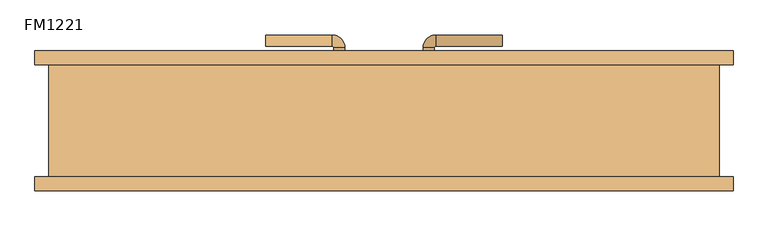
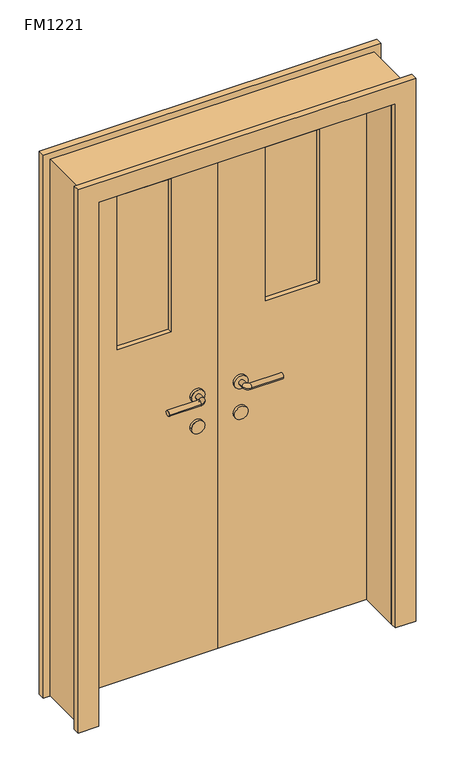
"""IFC4 building model written with IfcOpenShell, lengths in millimetres: door geometry, 双扇防火门 : FM1221."""

from ifc_helpers import new_model, si_unit, point, frame, frame_2d, origin, place, context, project, spatial, polyline, circle_curve, ellipse_curve, trimmed, segment, composite_curve, outline, extrude, source, transform, mapped, element, save
from ifc_brep_helpers import plane_surface, cylinder_surface, revolved_surface, advanced_brep


def fm1221_e838069c(model_context):
    return source(origin(), model_context, "Body", "SolidModel", [
        extrude(outline(composite_curve([segment(trimmed(circle_curve(frame_2d((900.0, 80.0)), 25.0), [point((900.0, 105.0))], [point((900.0, 55.0))], False, "CARTESIAN"), True, "CONTINUOUS"), segment(trimmed(circle_curve(frame_2d((900.0, 80.0)), 25.0), [point((900.0, 55.0))], [point((900.0, 105.0))], False, "CARTESIAN"), True, "CONTINUOUS")], self_intersect=False)), frame((0.0, 100.0, 0.0), z_axis=(0.0, 1.0, 0.0), x_axis=(0.0, 0.0, 1.0)), (0.0, 0.0, 1.0), 10.0),
        extrude(outline(composite_curve([segment(trimmed(circle_curve(frame_2d((900.0, 80.0)), 25.0), [point((900.0, 105.0))], [point((900.0, 55.0))], False, "CARTESIAN"), True, "CONTINUOUS"), segment(trimmed(circle_curve(frame_2d((900.0, 80.0)), 25.0), [point((900.0, 55.0))], [point((900.0, 105.0))], False, "CARTESIAN"), True, "CONTINUOUS")], self_intersect=False)), frame((0.0, 50.0, 0.0), z_axis=(0.0, 1.0, 0.0), x_axis=(0.0, 0.0, 1.0)), (0.0, 0.0, 1.0), 10.0),
        advanced_brep(
        [(70.0, 110.0, 1020.0), (90.0, 110.0, 1020.0), (70.0, 130.6133551, 1020.0), (90.0, 130.6133551, 1020.0), (211.580964, 153.580964, 1020.0), (211.580964, 133.580964, 1020.0), (92.9676089, 133.580964, 1020.0), (92.9676089, 153.580964, 1020.0)],
        [
            (0, 1, circle_curve(frame((80.0, 110.0, 1020.0), z_axis=(0.0, -1.0, 0.0), x_axis=(1.0, 0.0, 0.0)), 10.0)),
            (1, 0, circle_curve(frame((80.0, 110.0, 1020.0), z_axis=(0.0, -1.0, 0.0), x_axis=(1.0, 0.0, 0.0)), 10.0)),
            (0, 2),
            (2, 3, circle_curve(frame((80.0, 130.6133551, 1020.0), z_axis=(0.0, -1.0, 0.0), x_axis=(1.0, 0.0, 0.0)), 10.0)),
            (3, 1),
            (3, 2, circle_curve(frame((80.0, 130.6133551, 1020.0), z_axis=(0.0, -1.0, 0.0), x_axis=(1.0, 0.0, 0.0)), 10.0)),
            (4, 5, circle_curve(frame((211.580964, 143.580964, 1020.0), z_axis=(1.0, 0.0, 0.0), x_axis=(0.0, -1.0, 0.0)), 10.0)),
            (5, 4, circle_curve(frame((211.580964, 143.580964, 1020.0), z_axis=(1.0, 0.0, 0.0), x_axis=(0.0, -1.0, 0.0)), 10.0)),
            (6, 7, circle_curve(frame((92.9676089, 143.580964, 1020.0), z_axis=(-1.0, 0.0, 0.0), x_axis=(0.0, -1.0, 0.0)), 10.0)),
            (7, 2, circle_curve(frame((92.9676089, 130.6133551, 1020.0), z_axis=(0.0, 0.0, 1.0), x_axis=(-1.0, 0.0, 0.0)), 22.9676089)),
            (3, 6, circle_curve(frame((92.9676089, 130.6133551, 1020.0), z_axis=(0.0, 0.0, -1.0), x_axis=(-1.0, 0.0, 0.0)), 2.9676089)),
            (7, 6, circle_curve(frame((92.9676089, 143.580964, 1020.0), z_axis=(-1.0, 0.0, 0.0), x_axis=(0.0, -1.0, 0.0)), 10.0)),
            (6, 5),
            (4, 7),
        ],
        [
            plane_surface(frame((80.0, 110.0, 900.0), z_axis=(0.0, -1.0, 0.0), x_axis=(0.0, 0.0, 1.0))),
            cylinder_surface(frame((80.0, 110.0, 1020.0), z_axis=(0.0, -1.0, 0.0), x_axis=(1.0, 0.0, 0.0)), 10.0),
            plane_surface(frame((211.580964, 143.580964, 900.0), z_axis=(1.0, 0.0, 0.0), x_axis=(0.0, 0.0, 1.0))),
            revolved_surface(trimmed(ellipse_curve(frame((80.0, 130.6133551, 1020.0), z_axis=(0.0, 1.0, 0.0), x_axis=(1.0, 0.0, 0.0)), 10.0, 10.0), [point((70.0, 130.6133551, 1020.0))], [point((90.0, 130.6133551, 1020.0))], True, "CARTESIAN"), (92.9676089, 130.6133551, 900.0), (0.0, 0.0, 1.0)),
            revolved_surface(trimmed(ellipse_curve(frame((80.0, 130.6133551, 1020.0), z_axis=(0.0, 1.0, 0.0), x_axis=(1.0, 0.0, 0.0)), 10.0, 10.0), [point((90.0, 130.6133551, 1020.0))], [point((70.0, 130.6133551, 1020.0))], True, "CARTESIAN"), (92.9676089, 130.6133551, 900.0), (0.0, 0.0, 1.0)),
            cylinder_surface(frame((92.9676089, 143.580964, 1020.0), z_axis=(-1.0, 0.0, 0.0), x_axis=(0.0, -1.0, 0.0)), 10.0),
        ],
        [
            (0, [[1, 2]]),
            (1, [[3, 4, 5, -1]]),
            (1, [[-5, 6, -3, -2]]),
            (2, [[7, 8]]),
            (3, [[9, 10, -6, 11]]),
            (4, [[12, -11, -4, -10]]),
            (5, [[13, -7, 14, -9]]),
            (5, [[-14, -8, -13, -12]]),
        ],
    ),
        extrude(outline(composite_curve([segment(trimmed(circle_curve(frame_2d((1020.0, 80.0)), 25.0), [point((1020.0, 105.0))], [point((1020.0, 55.0))], False, "CARTESIAN"), True, "CONTINUOUS"), segment(trimmed(circle_curve(frame_2d((1020.0, 80.0)), 25.0), [point((1020.0, 55.0))], [point((1020.0, 105.0))], False, "CARTESIAN"), True, "CONTINUOUS")], self_intersect=False)), frame((0.0, 100.0, 0.0), z_axis=(0.0, 1.0, 0.0), x_axis=(0.0, 0.0, 1.0)), (0.0, 0.0, 1.0), 10.0),
        advanced_brep(
        [(90.0, 50.0, 1020.0), (70.0, 50.0, 1020.0), (70.0, 29.386645, 1020.0), (90.0, 29.386645, 1020.0), (211.580964, 26.419036, 1020.0), (211.580964, 6.419036, 1020.0), (92.9676089, 6.419036, 1020.0), (92.9676089, 26.419036, 1020.0)],
        [
            (0, 1, circle_curve(frame((80.0, 50.0, 1020.0), z_axis=(0.0, 1.0, 0.0), x_axis=(-1.0, 0.0, 0.0)), 10.0)),
            (1, 0, circle_curve(frame((80.0, 50.0, 1020.0), z_axis=(0.0, 1.0, 0.0), x_axis=(-1.0, 0.0, 0.0)), 10.0)),
            (1, 2),
            (2, 3, circle_curve(frame((80.0, 29.386645, 1020.0), z_axis=(0.0, 1.0, 0.0), x_axis=(-1.0, 0.0, 0.0)), 10.0)),
            (3, 0),
            (3, 2, circle_curve(frame((80.0, 29.386645, 1020.0), z_axis=(0.0, 1.0, 0.0), x_axis=(-1.0, 0.0, 0.0)), 10.0)),
            (4, 5, circle_curve(frame((211.580964, 16.419036, 1020.0), z_axis=(1.0, 0.0, 0.0), x_axis=(0.0, -1.0, 0.0)), 10.0)),
            (5, 4, circle_curve(frame((211.580964, 16.419036, 1020.0), z_axis=(1.0, 0.0, 0.0), x_axis=(0.0, -1.0, 0.0)), 10.0)),
            (6, 7, circle_curve(frame((92.9676089, 16.419036, 1020.0), z_axis=(-1.0, 0.0, 0.0), x_axis=(0.0, -1.0, 0.0)), 10.0)),
            (7, 3, circle_curve(frame((92.9676089, 29.386645, 1020.0), z_axis=(0.0, 0.0, -1.0), x_axis=(-1.0, 0.0, 0.0)), 2.9676089)),
            (2, 6, circle_curve(frame((92.9676089, 29.386645, 1020.0), z_axis=(0.0, 0.0, 1.0), x_axis=(-1.0, 0.0, 0.0)), 22.9676089)),
            (7, 6, circle_curve(frame((92.9676089, 16.419036, 1020.0), z_axis=(-1.0, 0.0, 0.0), x_axis=(0.0, -1.0, 0.0)), 10.0)),
            (6, 5),
            (4, 7),
        ],
        [
            plane_surface(frame((80.0, 50.0, 900.0), z_axis=(0.0, 1.0, 0.0), x_axis=(0.0, 0.0, 1.0))),
            cylinder_surface(frame((80.0, 50.0, 1020.0), z_axis=(0.0, 1.0, 0.0), x_axis=(-1.0, 0.0, 0.0)), 10.0),
            plane_surface(frame((211.580964, 16.419036, 900.0), z_axis=(1.0, 0.0, 0.0), x_axis=(0.0, 0.0, 1.0))),
            revolved_surface(trimmed(ellipse_curve(frame((80.0, 29.386645, 1020.0), z_axis=(0.0, -1.0, 0.0), x_axis=(-1.0, 0.0, 0.0)), 10.0, 10.0), [point((90.0, 29.386645, 1020.0))], [point((70.0, 29.386645, 1020.0))], True, "CARTESIAN"), (92.9676089, 29.386645, 900.0), (0.0, 0.0, -1.0)),
            revolved_surface(trimmed(ellipse_curve(frame((80.0, 29.386645, 1020.0), z_axis=(0.0, -1.0, 0.0), x_axis=(-1.0, 0.0, 0.0)), 10.0, 10.0), [point((70.0, 29.386645, 1020.0))], [point((90.0, 29.386645, 1020.0))], True, "CARTESIAN"), (92.9676089, 29.386645, 900.0), (0.0, 0.0, -1.0)),
            cylinder_surface(frame((92.9676089, 16.419036, 1020.0), z_axis=(-1.0, 0.0, 0.0), x_axis=(0.0, -1.0, 0.0)), 10.0),
        ],
        [
            (0, [[1, 2]]),
            (1, [[3, 4, 5, -2]]),
            (1, [[-5, 6, -3, -1]]),
            (2, [[7, 8]]),
            (3, [[9, 10, -4, 11]]),
            (4, [[12, -11, -6, -10]]),
            (5, [[13, -7, 14, -9]]),
            (5, [[-14, -8, -13, -12]]),
        ],
    ),
        extrude(outline(composite_curve([segment(trimmed(circle_curve(frame_2d((1020.0, 80.0)), 25.0), [point((1020.0, 105.0))], [point((1020.0, 55.0))], False, "CARTESIAN"), True, "CONTINUOUS"), segment(trimmed(circle_curve(frame_2d((1020.0, 80.0)), 25.0), [point((1020.0, 55.0))], [point((1020.0, 105.0))], False, "CARTESIAN"), True, "CONTINUOUS")], self_intersect=False)), frame((0.0, 50.0, 0.0), z_axis=(0.0, 1.0, 0.0), x_axis=(0.0, 0.0, 1.0)), (0.0, 0.0, 1.0), 10.0),
        extrude(outline(composite_curve([segment(trimmed(circle_curve(frame_2d((900.0, -80.0)), 25.0), [point((900.0, -105.0))], [point((900.0, -55.0))], False, "CARTESIAN"), True, "CONTINUOUS"), segment(trimmed(circle_curve(frame_2d((900.0, -80.0)), 25.0), [point((900.0, -55.0))], [point((900.0, -105.0))], False, "CARTESIAN"), True, "CONTINUOUS")], self_intersect=False)), frame((0.0, 100.0, 0.0), z_axis=(0.0, 1.0, 0.0), x_axis=(0.0, 0.0, 1.0)), (0.0, 0.0, 1.0), 10.0),
        extrude(outline(composite_curve([segment(trimmed(circle_curve(frame_2d((900.0, -80.0)), 25.0), [point((900.0, -105.0))], [point((900.0, -55.0))], False, "CARTESIAN"), True, "CONTINUOUS"), segment(trimmed(circle_curve(frame_2d((900.0, -80.0)), 25.0), [point((900.0, -55.0))], [point((900.0, -105.0))], False, "CARTESIAN"), True, "CONTINUOUS")], self_intersect=False)), frame((0.0, 50.0, 0.0), z_axis=(0.0, 1.0, 0.0), x_axis=(0.0, 0.0, 1.0)), (0.0, 0.0, 1.0), 10.0),
        advanced_brep(
        [(-70.0, 110.0, 1020.0), (-90.0, 110.0, 1020.0), (-90.0, 130.6133551, 1020.0), (-70.0, 130.6133551, 1020.0), (-211.580964, 153.580964, 1020.0), (-211.580964, 133.580964, 1020.0), (-92.9676089, 133.580964, 1020.0), (-92.9676089, 153.580964, 1020.0)],
        [
            (0, 1, circle_curve(frame((-80.0, 110.0, 1020.0), z_axis=(0.0, -1.0, 0.0), x_axis=(-1.0, 0.0, 0.0)), 10.0)),
            (1, 0, circle_curve(frame((-80.0, 110.0, 1020.0), z_axis=(0.0, -1.0, 0.0), x_axis=(-1.0, 0.0, 0.0)), 10.0)),
            (1, 2),
            (2, 3, circle_curve(frame((-80.0, 130.6133551, 1020.0), z_axis=(0.0, -1.0, 0.0), x_axis=(-1.0, 0.0, 0.0)), 10.0)),
            (3, 0),
            (3, 2, circle_curve(frame((-80.0, 130.6133551, 1020.0), z_axis=(0.0, -1.0, 0.0), x_axis=(-1.0, 0.0, 0.0)), 10.0)),
            (4, 5, circle_curve(frame((-211.580964, 143.580964, 1020.0), z_axis=(-1.0, 0.0, 0.0), x_axis=(0.0, -1.0, 0.0)), 10.0)),
            (5, 4, circle_curve(frame((-211.580964, 143.580964, 1020.0), z_axis=(-1.0, 0.0, 0.0), x_axis=(0.0, -1.0, 0.0)), 10.0)),
            (6, 2, circle_curve(frame((-92.9676089, 130.6133551, 1020.0), z_axis=(0.0, 0.0, -1.0), x_axis=(1.0, 0.0, 0.0)), 2.9676089)),
            (3, 7, circle_curve(frame((-92.9676089, 130.6133551, 1020.0), z_axis=(0.0, 0.0, 1.0), x_axis=(1.0, 0.0, 0.0)), 22.9676089)),
            (7, 6, circle_curve(frame((-92.9676089, 143.580964, 1020.0), z_axis=(1.0, 0.0, 0.0), x_axis=(0.0, -1.0, 0.0)), 10.0)),
            (6, 7, circle_curve(frame((-92.9676089, 143.580964, 1020.0), z_axis=(1.0, 0.0, 0.0), x_axis=(0.0, -1.0, 0.0)), 10.0)),
            (7, 4),
            (5, 6),
        ],
        [
            plane_surface(frame((-80.0, 110.0, 900.0), z_axis=(0.0, -1.0, 0.0), x_axis=(0.0, 0.0, 1.0))),
            cylinder_surface(frame((-80.0, 110.0, 1020.0), z_axis=(0.0, -1.0, 0.0), x_axis=(-1.0, 0.0, 0.0)), 10.0),
            plane_surface(frame((-211.580964, 143.580964, 900.0), z_axis=(-1.0, 0.0, 0.0), x_axis=(0.0, 0.0, 1.0))),
            revolved_surface(trimmed(ellipse_curve(frame((-80.0, 130.6133551, 1020.0), z_axis=(0.0, -1.0, 0.0), x_axis=(-1.0, 0.0, 0.0)), 10.0, 10.0), [point((-70.0, 130.6133551, 1020.0))], [point((-90.0, 130.6133551, 1020.0))], True, "CARTESIAN"), (-92.9676089, 130.6133551, 900.0), (0.0, 0.0, 1.0)),
            revolved_surface(trimmed(ellipse_curve(frame((-80.0, 130.6133551, 1020.0), z_axis=(0.0, -1.0, 0.0), x_axis=(-1.0, 0.0, 0.0)), 10.0, 10.0), [point((-90.0, 130.6133551, 1020.0))], [point((-70.0, 130.6133551, 1020.0))], True, "CARTESIAN"), (-92.9676089, 130.6133551, 900.0), (0.0, 0.0, 1.0)),
            cylinder_surface(frame((-92.9676089, 143.580964, 1020.0), z_axis=(1.0, 0.0, 0.0), x_axis=(0.0, -1.0, 0.0)), 10.0),
        ],
        [
            (0, [[1, 2]]),
            (1, [[-2, 3, 4, 5]]),
            (1, [[-1, -5, 6, -3]]),
            (2, [[7, 8]]),
            (3, [[9, -6, 10, 11]]),
            (4, [[-10, -4, -9, 12]]),
            (5, [[-11, 13, -8, 14]]),
            (5, [[-12, -14, -7, -13]]),
        ],
    ),
        extrude(outline(composite_curve([segment(trimmed(circle_curve(frame_2d((1020.0, -80.0)), 25.0), [point((1020.0, -105.0))], [point((1020.0, -55.0))], False, "CARTESIAN"), True, "CONTINUOUS"), segment(trimmed(circle_curve(frame_2d((1020.0, -80.0)), 25.0), [point((1020.0, -55.0))], [point((1020.0, -105.0))], False, "CARTESIAN"), True, "CONTINUOUS")], self_intersect=False)), frame((0.0, 100.0, 0.0), z_axis=(0.0, 1.0, 0.0), x_axis=(0.0, 0.0, 1.0)), (0.0, 0.0, 1.0), 10.0),
        advanced_brep(
        [(-90.0, 50.0, 1020.0), (-70.0, 50.0, 1020.0), (-90.0, 29.386645, 1020.0), (-70.0, 29.386645, 1020.0), (-211.580964, 26.419036, 1020.0), (-211.580964, 6.419036, 1020.0), (-92.9676089, 6.419036, 1020.0), (-92.9676089, 26.419036, 1020.0)],
        [
            (0, 1, circle_curve(frame((-80.0, 50.0, 1020.0), z_axis=(0.0, 1.0, 0.0), x_axis=(1.0, 0.0, 0.0)), 10.0)),
            (1, 0, circle_curve(frame((-80.0, 50.0, 1020.0), z_axis=(0.0, 1.0, 0.0), x_axis=(1.0, 0.0, 0.0)), 10.0)),
            (0, 2),
            (2, 3, circle_curve(frame((-80.0, 29.386645, 1020.0), z_axis=(0.0, 1.0, 0.0), x_axis=(1.0, 0.0, 0.0)), 10.0)),
            (3, 1),
            (3, 2, circle_curve(frame((-80.0, 29.386645, 1020.0), z_axis=(0.0, 1.0, 0.0), x_axis=(1.0, 0.0, 0.0)), 10.0)),
            (4, 5, circle_curve(frame((-211.580964, 16.419036, 1020.0), z_axis=(-1.0, 0.0, 0.0), x_axis=(0.0, -1.0, 0.0)), 10.0)),
            (5, 4, circle_curve(frame((-211.580964, 16.419036, 1020.0), z_axis=(-1.0, 0.0, 0.0), x_axis=(0.0, -1.0, 0.0)), 10.0)),
            (6, 3, circle_curve(frame((-92.9676089, 29.386645, 1020.0), z_axis=(0.0, 0.0, 1.0), x_axis=(1.0, 0.0, 0.0)), 22.9676089)),
            (2, 7, circle_curve(frame((-92.9676089, 29.386645, 1020.0), z_axis=(0.0, 0.0, -1.0), x_axis=(1.0, 0.0, 0.0)), 2.9676089)),
            (7, 6, circle_curve(frame((-92.9676089, 16.419036, 1020.0), z_axis=(1.0, 0.0, 0.0), x_axis=(0.0, -1.0, 0.0)), 10.0)),
            (6, 7, circle_curve(frame((-92.9676089, 16.419036, 1020.0), z_axis=(1.0, 0.0, 0.0), x_axis=(0.0, -1.0, 0.0)), 10.0)),
            (7, 4),
            (5, 6),
        ],
        [
            plane_surface(frame((-80.0, 50.0, 900.0), z_axis=(0.0, 1.0, 0.0), x_axis=(0.0, 0.0, 1.0))),
            cylinder_surface(frame((-80.0, 50.0, 1020.0), z_axis=(0.0, 1.0, 0.0), x_axis=(1.0, 0.0, 0.0)), 10.0),
            plane_surface(frame((-211.580964, 16.419036, 900.0), z_axis=(-1.0, 0.0, 0.0), x_axis=(0.0, 0.0, 1.0))),
            revolved_surface(trimmed(ellipse_curve(frame((-80.0, 29.386645, 1020.0), z_axis=(0.0, 1.0, 0.0), x_axis=(1.0, 0.0, 0.0)), 10.0, 10.0), [point((-90.0, 29.386645, 1020.0))], [point((-70.0, 29.386645, 1020.0))], True, "CARTESIAN"), (-92.9676089, 29.386645, 900.0), (0.0, 0.0, -1.0)),
            revolved_surface(trimmed(ellipse_curve(frame((-80.0, 29.386645, 1020.0), z_axis=(0.0, 1.0, 0.0), x_axis=(1.0, 0.0, 0.0)), 10.0, 10.0), [point((-70.0, 29.386645, 1020.0))], [point((-90.0, 29.386645, 1020.0))], True, "CARTESIAN"), (-92.9676089, 29.386645, 900.0), (0.0, 0.0, -1.0)),
            cylinder_surface(frame((-92.9676089, 16.419036, 1020.0), z_axis=(1.0, 0.0, 0.0), x_axis=(0.0, -1.0, 0.0)), 10.0),
        ],
        [
            (0, [[1, 2]]),
            (1, [[-1, 3, 4, 5]]),
            (1, [[-2, -5, 6, -3]]),
            (2, [[7, 8]]),
            (3, [[9, -4, 10, 11]]),
            (4, [[-10, -6, -9, 12]]),
            (5, [[-11, 13, -8, 14]]),
            (5, [[-12, -14, -7, -13]]),
        ],
    ),
        extrude(outline(composite_curve([segment(trimmed(circle_curve(frame_2d((1020.0, -80.0)), 25.0), [point((1020.0, -105.0))], [point((1020.0, -55.0))], False, "CARTESIAN"), True, "CONTINUOUS"), segment(trimmed(circle_curve(frame_2d((1020.0, -80.0)), 25.0), [point((1020.0, -55.0))], [point((1020.0, -105.0))], False, "CARTESIAN"), True, "CONTINUOUS")], self_intersect=False)), frame((0.0, 50.0, 0.0), z_axis=(0.0, 1.0, 0.0), x_axis=(0.0, 0.0, 1.0)), (0.0, 0.0, 1.0), 10.0),
        extrude(outline(polyline([(0.0, 625.0), (2125.0, 625.0), (2125.0, -625.0), (0.0, -625.0), (0.0, -550.0), (2050.0, -550.0), (2050.0, 550.0), (0.0, 550.0), (0.0, 625.0)])), frame((0.0, 100.0, 0.0), z_axis=(0.0, 1.0, 0.0), x_axis=(0.0, 0.0, 1.0)), (0.0, 0.0, 1.0), 25.0),
        extrude(outline(polyline([(2125.0, 625.0), (2125.0, -625.0), (0.0, -625.0), (0.0, -550.0), (2050.0, -550.0), (2050.0, 550.0), (0.0, 550.0), (0.0, 625.0), (2125.0, 625.0)])), frame((0.0, -125.0, 0.0), z_axis=(0.0, 1.0, 0.0), x_axis=(0.0, 0.0, 1.0)), (0.0, 0.0, 1.0), 25.0),
        extrude(outline(polyline([(375.0, 78.0), (175.0, 78.0), (175.0, 82.0), (375.0, 82.0), (375.0, 78.0)])), frame((0.0, 0.0, 1300.0), z_axis=(0.0, 0.0, 1.0), x_axis=(1.0, 0.0, 0.0)), (0.0, 0.0, 1.0), 600.0),
        extrude(outline(polyline([(-175.0, 78.0), (-375.0, 78.0), (-375.0, 82.0), (-175.0, 82.0), (-175.0, 78.0)])), frame((0.0, 0.0, 1300.0), z_axis=(0.0, 0.0, 1.0), x_axis=(1.0, 0.0, 0.0)), (0.0, 0.0, 1.0), 600.0),
        extrude(outline(polyline([(2050.0, 550.0), (2050.0, 0.0), (0.0, 0.0), (0.0, 550.0), (2050.0, 550.0)]), holes=[polyline([(1900.0, 175.0), (1900.0, 375.0), (1300.0, 375.0), (1300.0, 175.0), (1900.0, 175.0)])]), frame((0.0, 60.0, 0.0), z_axis=(0.0, 1.0, 0.0), x_axis=(0.0, 0.0, 1.0)), (0.0, 0.0, 1.0), 40.0),
        extrude(outline(polyline([(2050.0, 0.0), (2050.0, -550.0), (0.0, -550.0), (0.0, 0.0), (2050.0, 0.0)]), holes=[polyline([(1900.0, -375.0), (1900.0, -175.0), (1300.0, -175.0), (1300.0, -375.0), (1900.0, -375.0)])]), frame((0.0, 60.0, 0.0), z_axis=(0.0, 1.0, 0.0), x_axis=(0.0, 0.0, 1.0)), (0.0, 0.0, 1.0), 40.0),
        extrude(outline(polyline([(2100.0, -600.0), (0.0, -600.0), (0.0, -550.0), (2050.0, -550.0), (2050.0, 550.0), (0.0, 550.0), (0.0, 600.0), (2100.0, 600.0), (2100.0, -600.0)])), frame((0.0, -100.0, 0.0), z_axis=(0.0, 1.0, 0.0), x_axis=(0.0, 0.0, 1.0)), (0.0, 0.0, 1.0), 200.0),
    ])


if __name__ == "__main__":
    model = new_model("IFC4")
    model_context = context("Model", 3, world=origin())
    ifc_project = project(units=[si_unit("LENGTHUNIT", "METRE", prefix="MILLI")], contexts=[model_context])
    site = spatial("IfcSite", under=ifc_project)
    building = spatial("IfcBuilding", under=site)
    placement = place(None, origin())
    fm1221_shape = fm1221_e838069c(model_context)
    element("IfcDoor", 1, ObjectType="双扇防火门 : FM1221", at=placement, inside=building, context=model_context, shape_type="MappedRepresentation", body=[
        mapped(fm1221_shape, transform((0.0, 0.0, 0.0), x_axis=(1.0, 0.0, 0.0), y_axis=(0.0, 1.0, 0.0), z_axis=(0.0, 0.0, 1.0))),
    ])
    save(model, "model.ifc")
